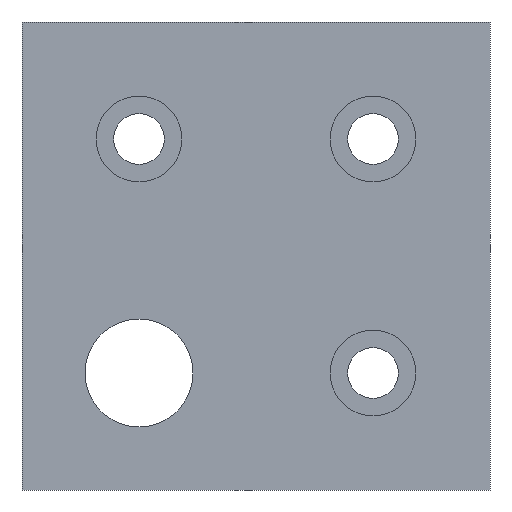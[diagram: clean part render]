
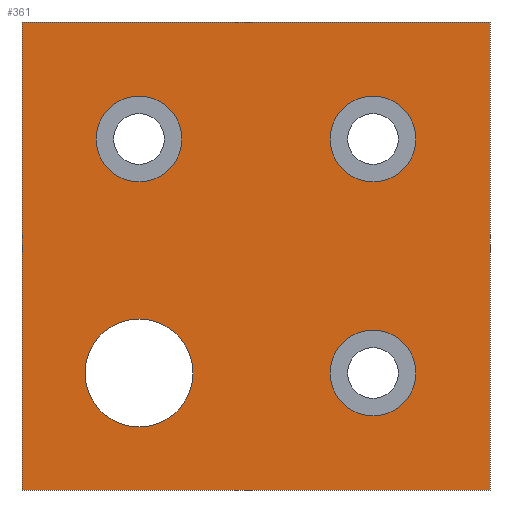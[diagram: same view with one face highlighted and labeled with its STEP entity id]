
A CAD part, front view. The second image highlights one B-rep face of the part: STEP entity #361.
In plain terms, the highlighted planar face has unit normal (0, -1, 0).
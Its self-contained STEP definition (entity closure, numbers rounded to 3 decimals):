
#31=CIRCLE('',#387,6.918);
#32=CIRCLE('',#388,5.5);
#33=CIRCLE('',#389,5.5);
#34=CIRCLE('',#390,5.5);
#65=ORIENTED_EDGE('',*,*,#109,.T.);
#66=ORIENTED_EDGE('',*,*,#110,.T.);
#67=ORIENTED_EDGE('',*,*,#111,.T.);
#68=ORIENTED_EDGE('',*,*,#112,.T.);
#69=ORIENTED_EDGE('',*,*,#93,.F.);
#70=ORIENTED_EDGE('',*,*,#103,.F.);
#71=ORIENTED_EDGE('',*,*,#100,.F.);
#72=ORIENTED_EDGE('',*,*,#97,.F.);
#93=EDGE_CURVE('',#119,#120,#141,.T.);
#97=EDGE_CURVE('',#120,#123,#145,.T.);
#100=EDGE_CURVE('',#123,#125,#148,.T.);
#103=EDGE_CURVE('',#125,#119,#151,.T.);
#109=EDGE_CURVE('',#131,#131,#31,.T.);
#110=EDGE_CURVE('',#132,#132,#32,.T.);
#111=EDGE_CURVE('',#133,#133,#33,.T.);
#112=EDGE_CURVE('',#134,#134,#34,.T.);
#119=VERTEX_POINT('',#484);
#120=VERTEX_POINT('',#485);
#123=VERTEX_POINT('',#493);
#125=VERTEX_POINT('',#499);
#131=VERTEX_POINT('',#517);
#132=VERTEX_POINT('',#519);
#133=VERTEX_POINT('',#521);
#134=VERTEX_POINT('',#523);
#141=LINE('',#483,#153);
#145=LINE('',#492,#157);
#148=LINE('',#498,#160);
#151=LINE('',#504,#163);
#153=VECTOR('',#411,1000.);
#157=VECTOR('',#417,1000.);
#160=VECTOR('',#422,1000.);
#163=VECTOR('',#427,1000.);
#174=EDGE_LOOP('',(#65));
#175=EDGE_LOOP('',(#66));
#176=EDGE_LOOP('',(#67));
#177=EDGE_LOOP('',(#68));
#178=EDGE_LOOP('',(#69,#70,#71,#72));
#208=FACE_BOUND('',#174,.T.);
#209=FACE_BOUND('',#175,.T.);
#210=FACE_BOUND('',#176,.T.);
#211=FACE_BOUND('',#177,.T.);
#212=FACE_BOUND('',#178,.T.);
#238=PLANE('',#386);
#361=ADVANCED_FACE('',(#208,#209,#210,#211,#212),#238,.F.);
#386=AXIS2_PLACEMENT_3D('',#515,#439,#440);
#387=AXIS2_PLACEMENT_3D('',#516,#441,#442);
#388=AXIS2_PLACEMENT_3D('',#518,#443,#444);
#389=AXIS2_PLACEMENT_3D('',#520,#445,#446);
#390=AXIS2_PLACEMENT_3D('',#522,#447,#448);
#411=DIRECTION('',(0.,0.,1.));
#417=DIRECTION('',(1.,0.,0.));
#422=DIRECTION('',(0.,0.,-1.));
#427=DIRECTION('',(-1.,0.,0.));
#439=DIRECTION('',(0.,1.,0.));
#440=DIRECTION('',(0.,0.,1.));
#441=DIRECTION('',(0.,1.,0.));
#442=DIRECTION('',(0.,0.,-1.));
#443=DIRECTION('',(0.,1.,0.));
#444=DIRECTION('',(0.,0.,-1.));
#445=DIRECTION('',(0.,1.,0.));
#446=DIRECTION('',(0.,0.,-1.));
#447=DIRECTION('',(0.,1.,0.));
#448=DIRECTION('',(0.,0.,-1.));
#483=CARTESIAN_POINT('',(0.,0.,0.));
#484=CARTESIAN_POINT('',(0.,0.,0.));
#485=CARTESIAN_POINT('',(0.,0.,60.));
#492=CARTESIAN_POINT('',(0.,0.,60.));
#493=CARTESIAN_POINT('',(60.,0.,60.));
#498=CARTESIAN_POINT('',(60.,0.,60.));
#499=CARTESIAN_POINT('',(60.,0.,0.));
#504=CARTESIAN_POINT('',(60.,0.,0.));
#515=CARTESIAN_POINT('',(0.,0.,0.));
#516=CARTESIAN_POINT('',(15.,0.,15.));
#517=CARTESIAN_POINT('',(15.,0.,8.083));
#518=CARTESIAN_POINT('',(45.,0.,15.));
#519=CARTESIAN_POINT('',(45.,0.,9.5));
#520=CARTESIAN_POINT('',(45.,0.,45.));
#521=CARTESIAN_POINT('',(45.,0.,39.5));
#522=CARTESIAN_POINT('',(15.,0.,45.));
#523=CARTESIAN_POINT('',(15.,0.,39.5));
